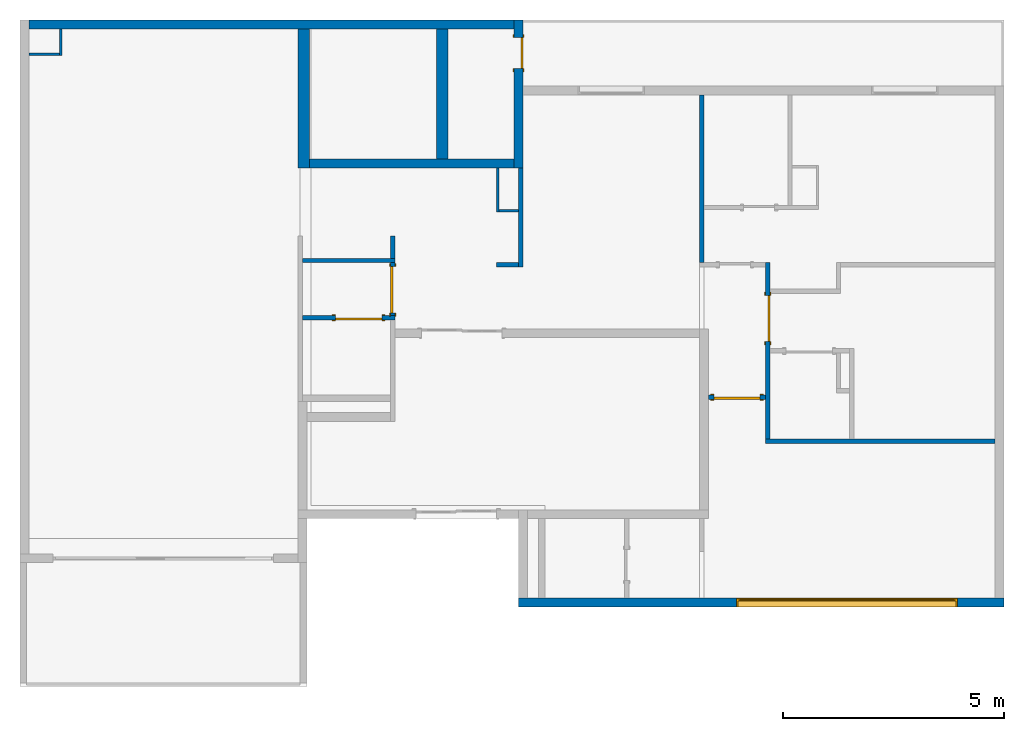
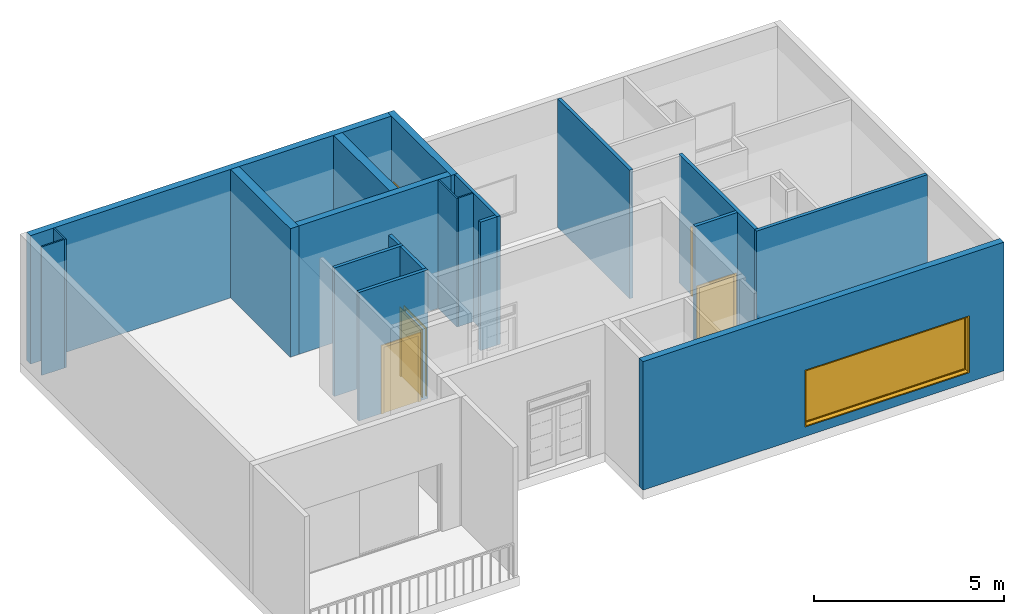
# One storey, part 5 of 8: 20 walls, 5 doors, 1 window, 7 openings.
"""IFC2X3 building model written with IfcOpenShell, lengths in metres."""

from ifc_helpers import new_model, entity, si_unit, converted_unit, derived_unit, direction, frame, frame_2d, origin, origin_2d_with_axis, place, context, subcontext, project, spatial, polyline, rectangle, outline, extrude, clip, bounded_halfspace, source, transform, mapped, material, material_list, layer, layer_set, layer_usage, type_object, type_shapes, element, fill, save


model = new_model("IFC2X3")

# Units and contexts
model_context = context("Model", 3, precision=1e-05, world=origin(), true_north=direction((6.123031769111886e-17, 1.0)))
body_context = subcontext(model_context, "Body", "Model", "MODEL_VIEW")
ifc_project = project(units=[si_unit("LENGTHUNIT", "METRE"), si_unit("AREAUNIT", "SQUARE_METRE"), si_unit("VOLUMEUNIT", "CUBIC_METRE"), converted_unit("PLANEANGLEUNIT", "DEGREE", entity("IfcRatioMeasure", 0.017453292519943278), si_unit("PLANEANGLEUNIT", "RADIAN"), dimensions=[0, 0, 0, 0, 0, 0, 0]), si_unit("MASSUNIT", "GRAM", prefix="KILO"), derived_unit("MASSDENSITYUNIT", [(si_unit("MASSUNIT", "GRAM", prefix="KILO"), 1), (si_unit("LENGTHUNIT", "METRE"), -3)]), derived_unit("MOMENTOFINERTIAUNIT", [(si_unit("LENGTHUNIT", "METRE"), 4)]), si_unit("TIMEUNIT", "SECOND"), si_unit("FREQUENCYUNIT", "HERTZ"), si_unit("THERMODYNAMICTEMPERATUREUNIT", "DEGREE_CELSIUS"), derived_unit("THERMALTRANSMITTANCEUNIT", [(si_unit("MASSUNIT", "GRAM", prefix="KILO"), 1), (si_unit("THERMODYNAMICTEMPERATUREUNIT", "KELVIN"), -1), (si_unit("TIMEUNIT", "SECOND"), -3)]), derived_unit("VOLUMETRICFLOWRATEUNIT", [(si_unit("LENGTHUNIT", "METRE"), 3), (si_unit("TIMEUNIT", "SECOND"), -1)]), derived_unit("MASSFLOWRATEUNIT", [(si_unit("MASSUNIT", "GRAM", prefix="KILO"), 1), (si_unit("TIMEUNIT", "SECOND"), -1)]), derived_unit("ROTATIONALFREQUENCYUNIT", [(si_unit("TIMEUNIT", "SECOND"), -1)]), si_unit("ELECTRICCURRENTUNIT", "AMPERE"), si_unit("ELECTRICVOLTAGEUNIT", "VOLT"), si_unit("POWERUNIT", "WATT"), si_unit("FORCEUNIT", "NEWTON", prefix="KILO"), si_unit("ILLUMINANCEUNIT", "LUX"), si_unit("LUMINOUSFLUXUNIT", "LUMEN"), si_unit("LUMINOUSINTENSITYUNIT", "CANDELA"), derived_unit("USERDEFINED", [(si_unit("MASSUNIT", "GRAM", prefix="KILO"), -1), (si_unit("LENGTHUNIT", "METRE"), -2), (si_unit("TIMEUNIT", "SECOND"), 3), (si_unit("LUMINOUSFLUXUNIT", "LUMEN"), 1)]), derived_unit("SOUNDPOWERUNIT", [(si_unit("MASSUNIT", "GRAM", prefix="KILO"), 1), (si_unit("LENGTHUNIT", "METRE"), 2), (si_unit("TIMEUNIT", "SECOND"), -3)]), derived_unit("SOUNDPRESSUREUNIT", [(si_unit("MASSUNIT", "GRAM", prefix="KILO"), 1), (si_unit("LENGTHUNIT", "METRE"), -1), (si_unit("TIMEUNIT", "SECOND"), -2)]), derived_unit("LINEARVELOCITYUNIT", [(si_unit("LENGTHUNIT", "METRE"), 1), (si_unit("TIMEUNIT", "SECOND"), -1)]), si_unit("PRESSUREUNIT", "PASCAL"), derived_unit("USERDEFINED", [(si_unit("LENGTHUNIT", "METRE"), -2), (si_unit("MASSUNIT", "GRAM", prefix="KILO"), 1), (si_unit("TIMEUNIT", "SECOND"), -2)]), derived_unit("LINEARFORCEUNIT", [(si_unit("MASSUNIT", "GRAM", prefix="KILO"), 1), (si_unit("LENGTHUNIT", "METRE"), 1), (si_unit("TIMEUNIT", "SECOND"), -2), (si_unit("LENGTHUNIT", "METRE"), -1)]), derived_unit("PLANARFORCEUNIT", [(si_unit("MASSUNIT", "GRAM", prefix="KILO"), 1), (si_unit("LENGTHUNIT", "METRE"), 1), (si_unit("TIMEUNIT", "SECOND"), -2), (si_unit("LENGTHUNIT", "METRE"), -2)])], contexts=[model_context])

# Site, building, storey
site_placement = place(None, origin())
site = spatial("IfcSite", under=ifc_project, at=site_placement, Name="Default", CompositionType="ELEMENT")
building_placement = place(site_placement, origin())
building = spatial("IfcBuilding", under=site, at=building_placement, CompositionType="ELEMENT")
storey_placement = place(building_placement, frame((0.0, 0.0, 1.1999999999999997)))
storey = spatial("IfcBuildingStorey", under=building, at=storey_placement, Name="G0", CompositionType="ELEMENT", Elevation=1.1999999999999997)

# Wall, opening, window
ifc_material_1 = material(Name="Masonry - Concrete Block")
ifc_layer_1 = layer(ifc_material_1, 0.2)
ifc_layer_set_1 = layer_set([ifc_layer_1], Name="Basic Wall:CW 200")
ifc_layer_usage_1 = layer_usage(ifc_layer_set_1, "AXIS2", "NEGATIVE", 0.1)
wall_type_1 = type_object("IfcWallType", Name="Basic Wall:CW 200", PredefinedType="STANDARD", material=ifc_layer_set_1)
wall_1_placement = place(storey_placement, frame((17.90768321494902, -7.202309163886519, 0.0)))
wall_1 = element("IfcWallStandardCase", 1, at=wall_1_placement, inside=storey, type_object=wall_type_1, material=ifc_layer_usage_1, Name="Basic Wall:CW 200", ObjectType="Basic Wall:CW 200", context=body_context, shape_type="Clipping", body=[
    clip(extrude(rectangle(XDim=10.99999999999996, YDim=0.2, at=frame_2d((5.49999999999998, 0.0), x_axis=(-1.0, 0.0))), origin(), (0.0, 0.0, 1.0), 4.139999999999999), bounded_halfspace(frame((4.100000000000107, -0.1, 4.139999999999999), z_axis=(0.0, 0.0, -1.0), x_axis=(0.0, 1.0, 0.0)), True, frame((4.100000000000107, -0.1, 4.139999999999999)), polyline([(0.0, 0.0), (2.103119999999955, 0.0), (2.103119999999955, 0.06096000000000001), (2.0421599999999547, 0.06096000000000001), (0.0, 0.06096000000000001), (0.0, 0.0)]))),
])
opening_1_placement = place(wall_1_placement, frame((4.942499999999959, -0.10000000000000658, 0.3050000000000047)))
opening_1 = element("IfcOpeningElement", 2, at=opening_1_placement, cuts=wall_1, Name="M_Fixed:0915 x 1830mm:1", ObjectType="Opening", context=body_context, shape_type="SweptSolid", body=[
    extrude(rectangle(XDim=1.8299999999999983, YDim=4.999999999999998, at=frame_2d((0.9149999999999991, 2.499999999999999), x_axis=(1.0, 0.0))), frame((0.0, 0.0, 0.0), z_axis=(0.0, 1.0, 0.0), x_axis=(0.0, 0.0, 1.0)), (0.0, 0.0, 1.0), 0.2),
])
ifc_material_2 = material(Name="Glass")
ifc_material_3 = material(Name="Sash")
ifc_material_list_1 = material_list([ifc_material_2, ifc_material_3, ifc_material_3, ifc_material_3])
ifc_material_list_2 = material_list([ifc_material_2, ifc_material_3, ifc_material_3, ifc_material_3])
window_style = type_object("IfcWindowStyle", Name="M_Fixed:0915 x 1830mm", ConstructionType="NOTDEFINED", OperationType="NOTDEFINED", ParameterTakesPrecedence=False, Sizeable=False, material=ifc_material_list_2)
shared_shape_1 = source(origin(), body_context, "Body", "SweptSolid", [
    extrude(rectangle(XDim=0.011999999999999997, YDim=4.873999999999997, at=frame_2d((8.239936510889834e-18, 0.0), x_axis=(1.0, 0.0))), frame((2.5000000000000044, 0.1589999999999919, 0.06299999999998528), z_axis=(0.0, 0.0, 1.0), x_axis=(0.0, -1.0, 0.0)), (0.0, 0.0, 1.0), 1.7040000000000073),
    extrude(outline(polyline([(-2.4809999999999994, -0.8960000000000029), (2.4809999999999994, -0.8960000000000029), (2.4809999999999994, 0.8960000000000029), (-2.4809999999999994, 0.8960000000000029), (-2.4809999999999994, -0.8960000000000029)]), holes=[polyline([(-2.437, -0.8520000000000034), (-2.437, 0.852000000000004), (2.436999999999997, 0.8520000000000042), (2.436999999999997, -0.8520000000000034), (-2.437, -0.8520000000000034)])]), frame((2.500000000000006, 0.13699999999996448, 0.9149999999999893), z_axis=(0.0, 1.0, 0.0), x_axis=(1.0, 0.0, 0.0)), (0.0, 0.0, 1.0), 0.04400000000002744),
    extrude(outline(polyline([(-2.4999999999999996, -0.9149999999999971), (2.4999999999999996, -0.9149999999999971), (2.4999999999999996, 0.9149999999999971), (-2.4999999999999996, 0.9149999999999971), (-2.4999999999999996, -0.9149999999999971)]), holes=[polyline([(-2.4810000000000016, -0.8959999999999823), (-2.4810000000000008, 0.8960000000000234), (2.4809999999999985, 0.8960000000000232), (2.4809999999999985, -0.8959999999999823), (-2.4810000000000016, -0.8959999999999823)])]), frame((2.500000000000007, 0.13699999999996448, 0.9150000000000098), z_axis=(0.0, 1.0, 0.0), x_axis=(1.0, 0.0, 0.0)), (0.0, 0.0, 1.0), 0.06300000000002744),
    extrude(outline(polyline([(-2.5, -0.9149999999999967), (2.5, -0.9149999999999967), (2.5, 0.9149999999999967), (-2.5, 0.9149999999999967), (-2.5, -0.9149999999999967)]), holes=[polyline([(-2.4679999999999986, -0.8829999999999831), (-2.4679999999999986, 0.8830000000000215), (2.4680000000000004, 0.8830000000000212), (2.4680000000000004, -0.8829999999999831), (-2.4679999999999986, -0.8829999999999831)])]), frame((2.500000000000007, 0.0, 0.9150000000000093), z_axis=(0.0, 1.0, 0.0), x_axis=(1.0, 0.0, 0.0)), (0.0, 0.0, 1.0), 0.1369999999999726),
])
type_shapes(window_style, [shared_shape_1])
window_placement = place(opening_1_placement, origin())
window = element("IfcWindow", 3, at=window_placement, inside=storey, type_object=window_style, material=ifc_material_list_1, Name="M_Fixed:0915 x 1830mm", ObjectType="M_Fixed:0915 x 1830mm", OverallHeight=1.8299999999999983, OverallWidth=4.999999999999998, context=body_context, shape_type="MappedRepresentation", body=[
    mapped(shared_shape_1, transform((0.0, 0.0, 0.0), scale=1.0)),
])
fill(opening_1, window)

# Wall
ifc_layer_usage_2 = layer_usage(ifc_layer_set_1, "AXIS2", "NEGATIVE", 0.1)
wall_2_placement = place(storey_placement, frame((6.807683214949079, 5.897690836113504, 0.0)))
element("IfcWallStandardCase", 4, at=wall_2_placement, inside=storey, type_object=wall_type_1, material=ifc_layer_usage_2, Name="Basic Wall:CW 200", ObjectType="Basic Wall:CW 200", context=body_context, shape_type="SweptSolid", body=[
    extrude(rectangle(XDim=10.999999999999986, YDim=0.2, at=frame_2d((5.499999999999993, 0.0), x_axis=(-1.0, 0.0))), origin(), (0.0, 0.0, 1.0), 4.139999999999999),
])

# Wall, opening, door
ifc_layer_usage_3 = layer_usage(ifc_layer_set_1, "AXIS2", "NEGATIVE", 0.1)
wall_3_placement = place(storey_placement, frame((17.907683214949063, 5.997690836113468, 0.0), z_axis=(0.0, 0.0, 1.0), x_axis=(0.0, -1.0, 0.0)))
wall_3 = element("IfcWallStandardCase", 5, at=wall_3_placement, inside=storey, type_object=wall_type_1, material=ifc_layer_usage_3, Name="Basic Wall:CW 200", ObjectType="Basic Wall:CW 200", context=body_context, shape_type="SweptSolid", body=[
    extrude(rectangle(XDim=3.350000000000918, YDim=0.2, at=frame_2d((1.6750000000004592, -1.0130785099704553e-15), x_axis=(1.0, 0.0))), origin(), (0.0, 0.0, 1.0), 4.139999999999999),
])
opening_2_placement = place(wall_3_placement, frame((0.39999999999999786, -0.10000000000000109, 0.0)))
opening_2 = element("IfcOpeningElement", 6, at=opening_2_placement, cuts=wall_3, Name="M_Single-Flush:0762 x 2032mm:1", ObjectType="Opening", context=body_context, shape_type="SweptSolid", body=[
    extrude(rectangle(XDim=0.7000000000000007, YDim=2.0319999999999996, at=frame_2d((1.0160000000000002, 0.3500000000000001), x_axis=(0.0, 1.0))), frame((0.0, 0.0, 0.0), z_axis=(0.0, 1.0, 0.0), x_axis=(0.0, 0.0, 1.0)), (0.0, 0.0, 1.0), 0.2),
])
ifc_material_4 = material(Name="Door - Frame")
ifc_material_5 = material(Name="Door - Panel")
ifc_material_list_3 = material_list([ifc_material_4, ifc_material_5])
ifc_material_list_4 = material_list([ifc_material_4, ifc_material_4, ifc_material_5])
door_style_1 = type_object("IfcDoorStyle", Name="M_Single-Flush:0762 x 2032mm", ConstructionType="NOTDEFINED", OperationType="NOTDEFINED", ParameterTakesPrecedence=False, Sizeable=False, material=ifc_material_list_4)
shared_shape_2 = source(origin(), body_context, "Body", "SweptSolid", [
    extrude(outline(polyline([(-0.426, -1.0729999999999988), (0.4259999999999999, -1.0729999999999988), (0.4259999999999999, 1.0350000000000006), (0.3499999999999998, 1.0350000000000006), (0.3499999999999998, -0.9970000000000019), (-0.3499999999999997, -0.9970000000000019), (-0.3499999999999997, 1.0350000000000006), (-0.426, 1.0350000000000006), (-0.426, -1.0729999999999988)])), frame((0.35000000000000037, 0.19999999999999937, 1.0350000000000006), z_axis=(0.0, 1.0, 0.0), x_axis=(1.0, 0.0, 0.0)), (0.0, 0.0, 1.0), 0.024999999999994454),
    extrude(outline(polyline([(-1.0729999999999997, -0.42599999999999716), (1.0349999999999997, -0.42599999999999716), (1.0349999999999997, -0.3500000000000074), (-0.9969999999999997, -0.3500000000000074), (-0.9969999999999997, 0.35000000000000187), (1.0349999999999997, 0.35000000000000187), (1.0349999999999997, 0.4260000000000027), (-1.0729999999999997, 0.4260000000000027), (-1.0729999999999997, -0.42599999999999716)])), frame((0.35000000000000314, -0.02500000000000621, 1.0349999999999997), z_axis=(0.0, 1.0, 0.0), x_axis=(0.0, 0.0, -1.0)), (0.0, 0.0, 1.0), 0.02500000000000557),
    extrude(rectangle(XDim=0.051000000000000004, YDim=0.6999999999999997, at=frame_2d((-3.469446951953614e-18, 0.0), x_axis=(1.0, 0.0))), frame((0.35000000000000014, 0.17449999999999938, 0.0), z_axis=(0.0, 0.0, 1.0), x_axis=(0.0, 1.0, 0.0)), (0.0, 0.0, 1.0), 2.0319999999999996),
])
type_shapes(door_style_1, [shared_shape_2])
door_1_placement = place(opening_2_placement, origin())
door_1 = element("IfcDoor", 7, at=door_1_placement, inside=storey, type_object=door_style_1, material=ifc_material_list_3, Name="M_Single-Flush:0762 x 2032mm", ObjectType="M_Single-Flush:0762 x 2032mm", OverallHeight=2.0319999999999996, OverallWidth=0.7000000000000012, context=body_context, shape_type="MappedRepresentation", body=[
    mapped(shared_shape_2, transform((0.0, 0.0, 0.0), scale=1.0)),
])
fill(opening_2, door_1)

# Walls
ifc_layer_usage_4 = layer_usage(ifc_layer_set_1, "AXIS2", "NEGATIVE", 0.1)
wall_4_placement = place(storey_placement, frame((17.80768321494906, 2.7476908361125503, 0.0), z_axis=(0.0, 0.0, 1.0), x_axis=(-1.0, 0.0, 0.0)))
element("IfcWallStandardCase", 8, at=wall_4_placement, inside=storey, type_object=wall_type_1, material=ifc_layer_usage_4, Name="Basic Wall:CW 200", ObjectType="Basic Wall:CW 200", context=body_context, shape_type="SweptSolid", body=[
    extrude(rectangle(XDim=4.639999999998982, YDim=0.2, at=frame_2d((2.319999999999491, 4.163336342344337e-17), x_axis=(-1.0, 0.0))), origin(), (0.0, 0.0, 1.0), 4.139999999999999),
])
ifc_layer_2 = layer(ifc_material_1, 0.1)
ifc_layer_set_2 = layer_set([ifc_layer_2], Name="Basic Wall:CW 100")
ifc_layer_usage_5 = layer_usage(ifc_layer_set_2, "AXIS2", "NEGATIVE", 0.05)
wall_type_2 = type_object("IfcWallType", Name="Basic Wall:CW 100", PredefinedType="STANDARD", material=ifc_layer_set_2)
wall_5_placement = place(storey_placement, frame((28.707683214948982, -3.5523091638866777, 0.0), z_axis=(0.0, 0.0, 1.0), x_axis=(-1.0, 0.0, 0.0)))
element("IfcWallStandardCase", 9, at=wall_5_placement, inside=storey, type_object=wall_type_2, material=ifc_layer_usage_5, Name="Basic Wall:CW 100", ObjectType="Basic Wall:CW 100", context=body_context, shape_type="SweptSolid", body=[
    extrude(rectangle(XDim=5.199999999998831, YDim=0.1, at=frame_2d((2.5999999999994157, -1.1102230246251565e-16), x_axis=(-1.0, 0.0))), origin(), (0.0, 0.0, 1.0), 4.139999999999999),
])

# Wall, opening, door
ifc_layer_usage_6 = layer_usage(ifc_layer_set_2, "AXIS2", "NEGATIVE", 0.05)
wall_6_placement = place(storey_placement, frame((23.557683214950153, -3.5023091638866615, 0.0), z_axis=(0.0, 0.0, 1.0), x_axis=(0.0, 1.0, 0.0)))
wall_6 = element("IfcWallStandardCase", 10, at=wall_6_placement, inside=storey, type_object=wall_type_2, material=ifc_layer_usage_6, Name="Basic Wall:CW 100", ObjectType="Basic Wall:CW 100", context=body_context, shape_type="SweptSolid", body=[
    extrude(rectangle(XDim=4.000000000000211, YDim=0.09999999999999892, at=frame_2d((2.000000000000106, 2.1649348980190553e-15), x_axis=(1.0, 0.0))), origin(), (0.0, 0.0, 1.0), 4.139999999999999),
])
opening_3_placement = place(wall_6_placement, frame((3.2599999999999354, 0.049999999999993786, 0.0)))
opening_3 = element("IfcOpeningElement", 11, at=opening_3_placement, cuts=wall_6, Name="M_Single-Flush:0915 x 2134mm:1", ObjectType="Opening", context=body_context, shape_type="SweptSolid", body=[
    extrude(rectangle(XDim=1.0499999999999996, YDim=2.1339999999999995, at=frame_2d((1.0669999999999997, 0.5249999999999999), x_axis=(0.0, 1.0))), frame((0.0, 0.0, 0.0), z_axis=(0.0, -1.0, 0.0), x_axis=(0.0, 0.0, 1.0)), (0.0, 0.0, 1.0), 0.1),
])
ifc_material_list_5 = material_list([ifc_material_4, ifc_material_4, ifc_material_5])
ifc_material_list_6 = material_list([ifc_material_4, ifc_material_4, ifc_material_5])
door_style_2 = type_object("IfcDoorStyle", Name="M_Single-Flush:0915 x 2134mm", ConstructionType="NOTDEFINED", OperationType="NOTDEFINED", ParameterTakesPrecedence=False, Sizeable=False, material=ifc_material_list_6)
shared_shape_3 = source(origin(), body_context, "Body", "SweptSolid", [
    extrude(outline(polyline([(-0.601, -1.123999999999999), (0.6009999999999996, -1.123999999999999), (0.6009999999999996, 1.0860000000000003), (0.5250000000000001, 1.0860000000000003), (0.5250000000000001, -1.0480000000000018), (-0.5249999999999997, -1.0480000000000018), (-0.5249999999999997, 1.0860000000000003), (-0.601, 1.0860000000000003), (-0.601, -1.123999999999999)])), frame((0.5250000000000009, 0.10000000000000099, 1.0860000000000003), z_axis=(0.0, 1.0, 0.0), x_axis=(1.0, 0.0, 0.0)), (0.0, 0.0, 1.0), 0.024999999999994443),
    extrude(outline(polyline([(-1.1239999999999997, -0.6009999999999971), (1.0859999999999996, -0.6009999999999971), (1.0859999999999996, -0.5250000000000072), (-1.0479999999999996, -0.5250000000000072), (-1.0479999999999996, 0.5250000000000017), (1.0859999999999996, 0.5250000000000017), (1.0859999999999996, 0.6010000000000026), (-1.1239999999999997, 0.6010000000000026), (-1.1239999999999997, -0.6009999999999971)])), frame((0.525000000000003, -0.025000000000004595, 1.0859999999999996), z_axis=(0.0, 1.0, 0.0), x_axis=(0.0, 0.0, -1.0)), (0.0, 0.0, 1.0), 0.02500000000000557),
    extrude(rectangle(XDim=0.051000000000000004, YDim=1.0499999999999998, at=origin_2d_with_axis()), frame((0.5250000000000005, 0.07450000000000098, 0.0), z_axis=(0.0, 0.0, 1.0), x_axis=(0.0, 1.0, 0.0)), (0.0, 0.0, 1.0), 2.133999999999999),
])
type_shapes(door_style_2, [shared_shape_3])
door_2_placement = place(opening_3_placement, frame((0.0, 0.0, 0.0), z_axis=(0.0, 0.0, 1.0), x_axis=(-1.0, 0.0, 0.0)))
door_2 = element("IfcDoor", 12, at=door_2_placement, inside=storey, type_object=door_style_2, material=ifc_material_list_5, Name="M_Single-Flush:0915 x 2134mm", ObjectType="M_Single-Flush:0915 x 2134mm", OverallHeight=2.1339999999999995, OverallWidth=1.05, context=body_context, shape_type="MappedRepresentation", body=[
    mapped(shared_shape_3, transform((0.0, 0.0, 0.0), scale=1.0)),
])
fill(opening_3, door_2)

# Wall
ifc_layer_usage_7 = layer_usage(ifc_layer_set_2, "AXIS2", "NEGATIVE", 0.05)
wall_7_placement = place(storey_placement, frame((22.05768321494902, 0.4976908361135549, 0.0), z_axis=(0.0, 0.0, 1.0), x_axis=(0.0, 1.0, 0.0)))
element("IfcWallStandardCase", 13, at=wall_7_placement, inside=storey, type_object=wall_type_2, material=ifc_layer_usage_7, Name="Basic Wall:CW 100", ObjectType="Basic Wall:CW 100", context=body_context, shape_type="SweptSolid", body=[
    extrude(rectangle(XDim=3.79999999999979, YDim=0.10000000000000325, at=frame_2d((1.899999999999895, 0.0), x_axis=(-1.0, 0.0))), origin(), (0.0, 0.0, 1.0), 4.139999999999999),
])

# Wall, opening, door
ifc_layer_usage_8 = layer_usage(ifc_layer_set_2, "AXIS2", "NEGATIVE", 0.05)
wall_8_placement = place(storey_placement, frame((23.507683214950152, -2.5523091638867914, 0.0), z_axis=(0.0, 0.0, 1.0), x_axis=(-1.0, 0.0, 0.0)))
wall_8 = element("IfcWallStandardCase", 14, at=wall_8_placement, inside=storey, type_object=wall_type_2, material=ifc_layer_usage_8, Name="Basic Wall:CW 100", ObjectType="Basic Wall:CW 100", context=body_context, shape_type="SweptSolid", body=[
    extrude(rectangle(XDim=1.3000000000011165, YDim=0.1, at=frame_2d((0.6500000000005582, 1.700029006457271e-16), x_axis=(1.0, 0.0))), origin(), (0.0, 0.0, 1.0), 4.139999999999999),
])
opening_4_placement = place(wall_8_placement, frame((0.125000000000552, -0.050000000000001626, 0.0)))
opening_4 = element("IfcOpeningElement", 15, at=opening_4_placement, cuts=wall_8, Name="M_Single-Flush:0915 x 2134mm:1", ObjectType="Opening", context=body_context, shape_type="SweptSolid", body=[
    extrude(rectangle(XDim=1.0499999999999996, YDim=2.1339999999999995, at=frame_2d((1.0669999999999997, 0.5249999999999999), x_axis=(0.0, 1.0))), frame((0.0, 0.0, 0.0), z_axis=(0.0, 1.0, 0.0), x_axis=(0.0, 0.0, 1.0)), (0.0, 0.0, 1.0), 0.1),
])
ifc_material_list_7 = material_list([ifc_material_4, ifc_material_5])
door_3_placement = place(opening_4_placement, origin())
door_3 = element("IfcDoor", 16, at=door_3_placement, inside=storey, type_object=door_style_2, material=ifc_material_list_7, Name="M_Single-Flush:0915 x 2134mm", ObjectType="M_Single-Flush:0915 x 2134mm", OverallHeight=2.1339999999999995, OverallWidth=1.0499999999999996, context=body_context, shape_type="MappedRepresentation", body=[
    mapped(shared_shape_3, transform((0.0, 0.0, 0.0), scale=1.0)),
])
fill(opening_4, door_3)

# Walls
ifc_layer_usage_9 = layer_usage(ifc_layer_set_2, "AXIS2", "NEGATIVE", 0.05)
wall_9_placement = place(storey_placement, frame((17.957683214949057, 2.64769083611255, 0.0), z_axis=(0.0, 0.0, 1.0), x_axis=(0.0, -1.0, 0.0)))
element("IfcWallStandardCase", 17, at=wall_9_placement, inside=storey, type_object=wall_type_2, material=ifc_layer_usage_9, Name="Basic Wall:CW 100", ObjectType="Basic Wall:CW 100", context=body_context, shape_type="SweptSolid", body=[
    extrude(rectangle(XDim=2.2499999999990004, YDim=0.09999999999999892, at=frame_2d((1.1249999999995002, 1.0061396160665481e-16), x_axis=(-1.0, 0.0))), origin(), (0.0, 0.0, 1.0), 4.139999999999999),
])
ifc_layer_usage_10 = layer_usage(ifc_layer_set_2, "AXIS2", "NEGATIVE", 0.05)
wall_10_placement = place(storey_placement, frame((13.007683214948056, 0.5476908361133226, 0.0)))
element("IfcWallStandardCase", 18, at=wall_10_placement, inside=storey, type_object=wall_type_2, material=ifc_layer_usage_10, Name="Basic Wall:CW 100", ObjectType="Basic Wall:CW 100", context=body_context, shape_type="SweptSolid", body=[
    extrude(rectangle(XDim=2.1000000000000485, YDim=0.1, at=frame_2d((1.0500000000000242, 0.0), x_axis=(-1.0, 0.0))), origin(), (0.0, 0.0, 1.0), 4.139999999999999),
])
ifc_layer_usage_11 = layer_usage(ifc_layer_set_2, "AXIS2", "NEGATIVE", 0.05)
wall_11_placement = place(storey_placement, frame((15.057683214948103, 0.5976908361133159, 0.0), z_axis=(0.0, 0.0, 1.0), x_axis=(0.0, 1.0, 0.0)))
element("IfcWallStandardCase", 19, at=wall_11_placement, inside=storey, type_object=wall_type_2, material=ifc_layer_usage_11, Name="Basic Wall:CW 100", ObjectType="Basic Wall:CW 100", context=body_context, shape_type="SweptSolid", body=[
    extrude(rectangle(XDim=0.5000000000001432, YDim=0.09999999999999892, at=frame_2d((0.2500000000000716, 0.0), x_axis=(-1.0, 0.0))), origin(), (0.0, 0.0, 1.0), 4.139999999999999),
])

# Wall, openings, door
ifc_layer_usage_12 = layer_usage(ifc_layer_set_2, "AXIS2", "NEGATIVE", 0.05)
wall_12_placement = place(storey_placement, frame((13.007683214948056, -0.7523091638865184, 0.0)))
wall_12 = element("IfcWallStandardCase", 20, at=wall_12_placement, inside=storey, type_object=wall_type_2, material=ifc_layer_usage_12, Name="Basic Wall:CW 100", ObjectType="Basic Wall:CW 100", context=body_context, shape_type="SweptSolid", body=[
    extrude(rectangle(XDim=2.1000000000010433, YDim=0.1, at=frame_2d((1.0500000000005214, 2.42861286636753e-17), x_axis=(1.0, 0.0))), origin(), (0.0, 0.0, 1.0), 4.139999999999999),
])
opening_5_placement = place(wall_12_placement, origin())
element("IfcOpeningElement", 21, at=opening_5_placement, cuts=wall_12, Name="Basic Wall:CW 100", ObjectType="Opening", context=body_context, shape_type="SweptSolid", body=[
    extrude(rectangle(XDim=2.1339999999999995, YDim=0.10000000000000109, at=frame_2d((-1.0824674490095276e-15, 0.0), x_axis=(0.0, 1.0))), frame((2.0500000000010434, 0.1100000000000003, 1.0669999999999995), z_axis=(0.0, 1.0, 0.0), x_axis=(-1.0, 0.0, 0.0)), (0.0, 0.0, 1.0), 1.0499999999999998),
])
opening_6_placement = place(wall_12_placement, frame((1.800000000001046, 0.049999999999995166, 0.0)))
opening_6 = element("IfcOpeningElement", 22, at=opening_6_placement, cuts=wall_12, Name="M_Single-Flush:0915 x 2134mm:1", ObjectType="Opening", context=body_context, shape_type="SweptSolid", body=[
    extrude(rectangle(XDim=1.0499999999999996, YDim=2.1339999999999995, at=frame_2d((1.0669999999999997, 0.5249999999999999), x_axis=(0.0, 1.0))), frame((0.0, 0.0, 0.0), z_axis=(0.0, -1.0, 0.0), x_axis=(0.0, 0.0, 1.0)), (0.0, 0.0, 1.0), 0.1),
])
ifc_material_list_8 = material_list([ifc_material_4, ifc_material_5])
door_4_placement = place(opening_6_placement, frame((0.0, 0.0, 0.0), z_axis=(0.0, 0.0, 1.0), x_axis=(-1.0, 0.0, 0.0)))
door_4 = element("IfcDoor", 23, at=door_4_placement, inside=storey, type_object=door_style_2, material=ifc_material_list_8, Name="M_Single-Flush:0915 x 2134mm", ObjectType="M_Single-Flush:0915 x 2134mm", OverallHeight=2.1339999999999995, OverallWidth=1.0499999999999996, context=body_context, shape_type="MappedRepresentation", body=[
    mapped(shared_shape_3, transform((0.0, 0.0, 0.0), scale=1.0)),
])
fill(opening_6, door_4)

# Wall, opening, door
ifc_layer_usage_13 = layer_usage(ifc_layer_set_2, "AXIS2", "NEGATIVE", 0.05)
wall_13_placement = place(storey_placement, frame((15.0576832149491, -0.702309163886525, 0.0), z_axis=(0.0, 0.0, 1.0), x_axis=(0.0, 1.0, 0.0)))
wall_13 = element("IfcWallStandardCase", 24, at=wall_13_placement, inside=storey, type_object=wall_type_2, material=ifc_layer_usage_13, Name="Basic Wall:CW 100", ObjectType="Basic Wall:CW 100", context=body_context, shape_type="SweptSolid", body=[
    extrude(rectangle(XDim=1.199999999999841, YDim=0.10000000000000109, at=frame_2d((0.5999999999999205, -1.0824674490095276e-15), x_axis=(1.0, 0.0))), origin(), (0.0, 0.0, 1.0), 4.139999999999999),
])
opening_7_placement = place(wall_13_placement, frame((0.0600000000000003, -0.050000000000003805, 0.0)))
opening_7 = element("IfcOpeningElement", 25, at=opening_7_placement, cuts=wall_13, Name="M_Single-Flush:0915 x 2134mm:1", ObjectType="Opening", context=body_context, shape_type="SweptSolid", body=[
    extrude(rectangle(XDim=1.0499999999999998, YDim=2.1339999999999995, at=frame_2d((1.0669999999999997, 0.5249999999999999), x_axis=(0.0, 1.0))), frame((0.0, 0.0, 0.0), z_axis=(0.0, 1.0, 0.0), x_axis=(0.0, 0.0, 1.0)), (0.0, 0.0, 1.0), 0.1),
])
ifc_material_list_9 = material_list([ifc_material_4, ifc_material_5])
door_5_placement = place(opening_7_placement, origin())
door_5 = element("IfcDoor", 26, at=door_5_placement, inside=storey, type_object=door_style_2, material=ifc_material_list_9, Name="M_Single-Flush:0915 x 2134mm", ObjectType="M_Single-Flush:0915 x 2134mm", OverallHeight=2.1339999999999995, OverallWidth=1.05, context=body_context, shape_type="MappedRepresentation", body=[
    mapped(shared_shape_3, transform((0.0, 0.0, 0.0), scale=1.0)),
])
fill(opening_7, door_5)

# Walls
ifc_layer_usage_14 = layer_usage(ifc_layer_set_2, "AXIS2", "NEGATIVE", 0.05)
wall_14_placement = place(storey_placement, frame((17.90768321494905, 0.44769083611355, 0.0), z_axis=(0.0, 0.0, 1.0), x_axis=(-1.0, 0.0, 0.0)))
element("IfcWallStandardCase", 27, at=wall_14_placement, inside=storey, type_object=wall_type_2, material=ifc_layer_usage_14, Name="Basic Wall:CW 100", ObjectType="Basic Wall:CW 100", context=body_context, shape_type="SweptSolid", body=[
    extrude(rectangle(XDim=0.500000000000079, YDim=0.1, at=frame_2d((0.2500000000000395, 0.0), x_axis=(-1.0, 0.0))), origin(), (0.0, 0.0, 1.0), 4.139999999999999),
])
ifc_layer_3 = layer(ifc_material_1, 0.25999999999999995)
ifc_layer_set_3 = layer_set([ifc_layer_3], Name="Basic Wall:CW 260")
ifc_layer_usage_15 = layer_usage(ifc_layer_set_3, "AXIS2", "NEGATIVE", 0.12999999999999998)
wall_type_3 = type_object("IfcWallType", Name="Basic Wall:CW 260", PredefinedType="STANDARD", material=ifc_layer_set_3)
wall_15_placement = place(storey_placement, frame((13.037683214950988, 5.797690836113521, 0.0), z_axis=(0.0, 0.0, 1.0), x_axis=(0.0, -1.0, 0.0)))
element("IfcWallStandardCase", 28, at=wall_15_placement, inside=storey, type_object=wall_type_3, material=ifc_layer_usage_15, Name="Basic Wall:CW 260", ObjectType="Basic Wall:CW 260", context=body_context, shape_type="SweptSolid", body=[
    extrude(rectangle(XDim=3.1500000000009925, YDim=0.26000000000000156, at=frame_2d((1.5750000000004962, 0.0), x_axis=(-1.0, 0.0))), origin(), (0.0, 0.0, 1.0), 4.139999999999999),
])
ifc_layer_usage_16 = layer_usage(ifc_layer_set_3, "AXIS2", "NEGATIVE", 0.12999999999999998)
wall_16_placement = place(storey_placement, frame((16.17768321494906, 2.847690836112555, 0.0), z_axis=(0.0, 0.0, 1.0), x_axis=(0.0, 1.0, 0.0)))
element("IfcWallStandardCase", 29, at=wall_16_placement, inside=storey, type_object=wall_type_3, material=ifc_layer_usage_16, Name="Basic Wall:CW 260", ObjectType="Basic Wall:CW 260", context=body_context, shape_type="SweptSolid", body=[
    extrude(rectangle(XDim=2.9500000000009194, YDim=0.26000000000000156, at=frame_2d((1.4750000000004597, -6.938893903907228e-17), x_axis=(-1.0, 0.0))), origin(), (0.0, 0.0, 1.0), 4.139999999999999),
])
ifc_layer_4 = layer(ifc_material_1, 0.05)
ifc_layer_set_4 = layer_set([ifc_layer_4], Name="Basic Wall:CW 50")
ifc_layer_usage_17 = layer_usage(ifc_layer_set_4, "AXIS2", "NEGATIVE", 0.025)
wall_type_4 = type_object("IfcWallType", Name="Basic Wall:CW 50", PredefinedType="STANDARD", material=ifc_layer_set_4)
wall_17_placement = place(storey_placement, frame((17.432683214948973, 2.647690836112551, 0.0), z_axis=(0.0, 0.0, 1.0), x_axis=(0.0, -1.0, 0.0)))
element("IfcWallStandardCase", 30, at=wall_17_placement, inside=storey, type_object=wall_type_4, material=ifc_layer_usage_17, Name="Basic Wall:CW 50", ObjectType="Basic Wall:CW 50", context=body_context, shape_type="SweptSolid", body=[
    extrude(rectangle(XDim=0.999999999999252, YDim=0.050000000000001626, at=frame_2d((0.499999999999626, 0.0), x_axis=(-1.0, 0.0))), origin(), (0.0, 0.0, 1.0), 4.139999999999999),
])
ifc_layer_usage_18 = layer_usage(ifc_layer_set_4, "AXIS2", "NEGATIVE", 0.025)
wall_18_placement = place(storey_placement, frame((17.457683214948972, 1.672690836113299, 0.0)))
element("IfcWallStandardCase", 31, at=wall_18_placement, inside=storey, type_object=wall_type_4, material=ifc_layer_usage_18, Name="Basic Wall:CW 50", ObjectType="Basic Wall:CW 50", context=body_context, shape_type="SweptSolid", body=[
    extrude(rectangle(XDim=0.4500000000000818, YDim=0.05, at=frame_2d((0.2250000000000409, 5.551115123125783e-17), x_axis=(-1.0, 0.0))), origin(), (0.0, 0.0, 1.0), 4.139999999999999),
])
ifc_layer_usage_19 = layer_usage(ifc_layer_set_4, "AXIS2", "NEGATIVE", 0.025)
wall_19_placement = place(storey_placement, frame((7.532683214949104, 5.797690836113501, 0.0), z_axis=(0.0, 0.0, 1.0), x_axis=(0.0, -1.0, 0.0)))
element("IfcWallStandardCase", 32, at=wall_19_placement, inside=storey, type_object=wall_type_4, material=ifc_layer_usage_19, Name="Basic Wall:CW 50", ObjectType="Basic Wall:CW 50", context=body_context, shape_type="SweptSolid", body=[
    extrude(rectangle(XDim=0.6000000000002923, YDim=0.04999999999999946, at=frame_2d((0.30000000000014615, 4.85722573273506e-17), x_axis=(-1.0, 0.0))), origin(), (0.0, 0.0, 1.0), 4.139999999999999),
])
ifc_layer_usage_20 = layer_usage(ifc_layer_set_4, "AXIS2", "NEGATIVE", 0.025)
wall_20_placement = place(storey_placement, frame((7.507683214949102, 5.222690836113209, 0.0), z_axis=(0.0, 0.0, 1.0), x_axis=(-1.0, 0.0, 0.0)))
element("IfcWallStandardCase", 33, at=wall_20_placement, inside=storey, type_object=wall_type_4, material=ifc_layer_usage_20, Name="Basic Wall:CW 50", ObjectType="Basic Wall:CW 50", context=body_context, shape_type="SweptSolid", body=[
    extrude(rectangle(XDim=0.7000000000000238, YDim=0.04999999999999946, at=frame_2d((0.3500000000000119, 0.0), x_axis=(-1.0, 0.0))), origin(), (0.0, 0.0, 1.0), 4.139999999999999),
])

save(model, "model.ifc")
